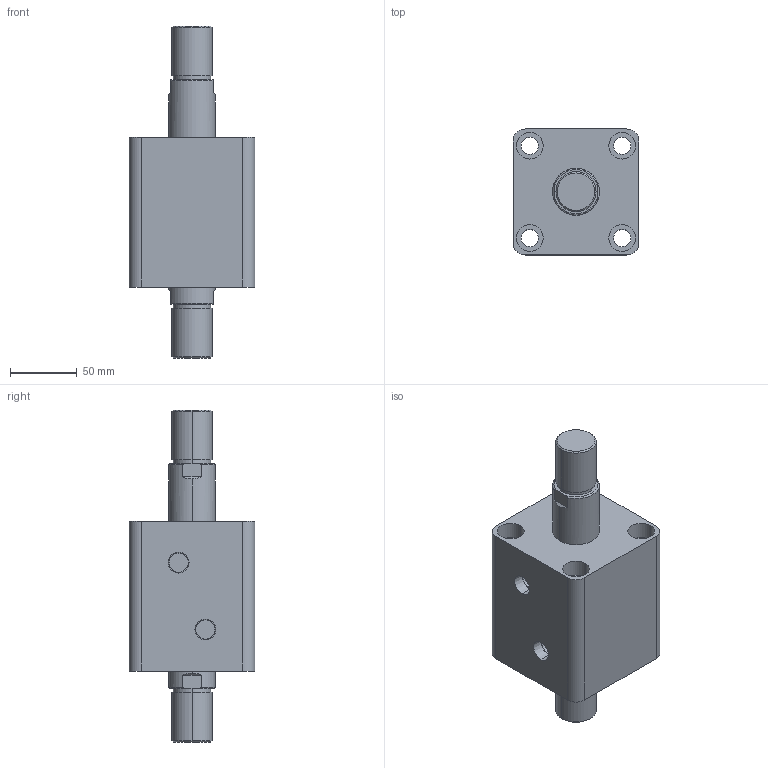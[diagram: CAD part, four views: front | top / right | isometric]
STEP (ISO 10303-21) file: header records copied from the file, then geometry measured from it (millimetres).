
FILE_DESCRIPTION (( 'STEP AP203' ), '1' );
FILE_NAME ('HTB-SW63-30W.STEP', '2019-10-07T10:03:42', ( '微软用户' ), ( '微软中国' ), 'SwSTEP 2.0', 'SolidWorks 2012', '' );
FILE_SCHEMA (( 'CONFIG_CONTROL_DESIGN' ));
Length unit declared in the file: millimetre
Products named in the file (3): HTB-SW63-30W; HTB-SW63-30W活塞杆; HTB-SW63-30掛极
Assembly tree (2 placements, depth 2):
  HTB-SW63-30W
    HTB-SW63-30掛极
    HTB-SW63-30W活塞杆
Bounding box: 94 x 94 x 248 mm (x, y, z)
Volume: 944271.1 mm3; surface area: 131329.1 mm2
Topology: 2 solids, 2 shells, 108 faces, 240 edges, 156 vertices
Faces by surface type: cylinder 52, plane 36, torus 12, cone 8
Entity records: 3465 total; most frequent: CARTESIAN_POINT 645, DIRECTION 586, ORIENTED_EDGE 480, AXIS2_PLACEMENT_3D 249, EDGE_CURVE 240, VERTEX_POINT 156, EDGE_LOOP 138, CIRCLE 136
